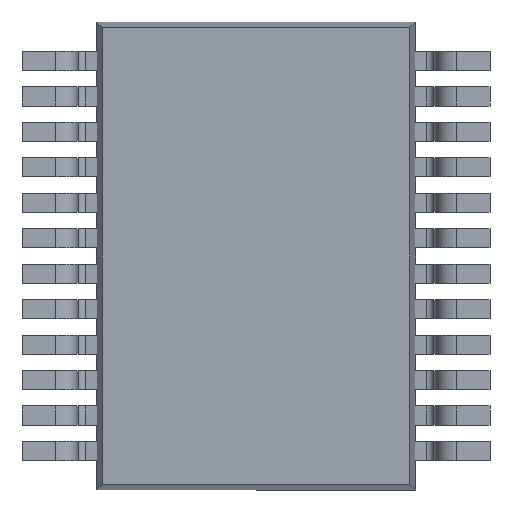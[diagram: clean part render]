
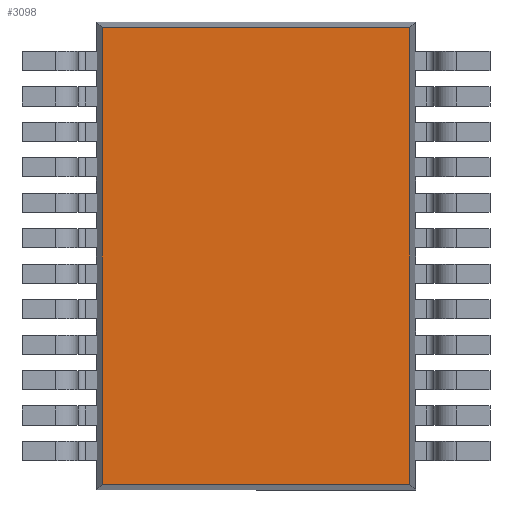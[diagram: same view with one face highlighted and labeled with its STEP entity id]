
A CAD part, front view. The second image highlights one B-rep face of the part: STEP entity #3098.
In plain terms, the highlighted planar face has unit normal (0, -1, 0).
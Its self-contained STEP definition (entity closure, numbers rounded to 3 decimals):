
#1488 = VERTEX_POINT ( 'NONE', #2256 ) ;
#1495 = VERTEX_POINT ( 'NONE', #2263 ) ;
#1498 = VERTEX_POINT ( 'NONE', #2266 ) ;
#1499 = VERTEX_POINT ( 'NONE', #2267 ) ;
#2256 = CARTESIAN_POINT ( 'NONE',  ( -2.166, 0.1, -3.216 ) ) ;
#2263 = CARTESIAN_POINT ( 'NONE',  ( -2.166, 0.1, 3.216 ) ) ;
#2266 = CARTESIAN_POINT ( 'NONE',  ( 2.166, 0.1, 3.216 ) ) ;
#2267 = CARTESIAN_POINT ( 'NONE',  ( 2.166, 0.1, -3.216 ) ) ;
#2684 = ORIENTED_EDGE ( 'NONE', *, *, #11657, .T. ) ;
#2685 = ORIENTED_EDGE ( 'NONE', *, *, #11531, .T. ) ;
#2686 = ORIENTED_EDGE ( 'NONE', *, *, #11656, .T. ) ;
#2687 = ORIENTED_EDGE ( 'NONE', *, *, #11703, .T. ) ;
#3098 = ADVANCED_FACE ( 'NONE', ( #13291 ), #8214, .F. ) ;
#3810 = CARTESIAN_POINT ( 'NONE',  ( 2.166, 0.1, 3.3 ) ) ;
#3812 = DIRECTION ( 'NONE',  ( 0., 0., 1. ) ) ;
#4216 = CARTESIAN_POINT ( 'NONE',  ( 2.25, 0.1, -3.216 ) ) ;
#4217 = DIRECTION ( 'NONE',  ( 1., 0., 0. ) ) ;
#4218 = CARTESIAN_POINT ( 'NONE',  ( 2.25, 0.1, 3.216 ) ) ;
#4219 = DIRECTION ( 'NONE',  ( -1., 0., 0. ) ) ;
#4320 = CARTESIAN_POINT ( 'NONE',  ( -2.166, 0.1, 3.3 ) ) ;
#4321 = DIRECTION ( 'NONE',  ( 0., 0., -1. ) ) ;
#6335 = VECTOR ( 'NONE', #4321, 1000. ) ;
#6349 = LINE ( 'NONE', #4320, #6335 ) ;
#6608 = VECTOR ( 'NONE', #4219, 1000. ) ;
#6621 = VECTOR ( 'NONE', #4217, 1000. ) ;
#6622 = LINE ( 'NONE', #4218, #6608 ) ;
#6624 = LINE ( 'NONE', #4216, #6621 ) ;
#8214 = PLANE ( 'NONE',  #12233 ) ;
#8242 = DIRECTION ( 'NONE',  ( 0., 0., 1. ) ) ;
#8244 = DIRECTION ( 'NONE',  ( 0., 1., 0. ) ) ;
#8255 = CARTESIAN_POINT ( 'NONE',  ( 0., 0.1, 0. ) ) ;
#10588 = VECTOR ( 'NONE', #3812, 1000. ) ;
#10597 = LINE ( 'NONE', #3810, #10588 ) ;
#11531 = EDGE_CURVE ( 'NONE', #1499, #1498, #10597, .T. ) ;
#11656 = EDGE_CURVE ( 'NONE', #1488, #1499, #6624, .T. ) ;
#11657 = EDGE_CURVE ( 'NONE', #1498, #1495, #6622, .T. ) ;
#11703 = EDGE_CURVE ( 'NONE', #1495, #1488, #6349, .T. ) ;
#12233 = AXIS2_PLACEMENT_3D ( 'NONE', #8255, #8244, #8242 ) ;
#13291 = FACE_OUTER_BOUND ( 'NONE', #13953, .T. ) ;
#13953 = EDGE_LOOP ( 'NONE', ( #2687, #2686, #2685, #2684 ) ) ;
